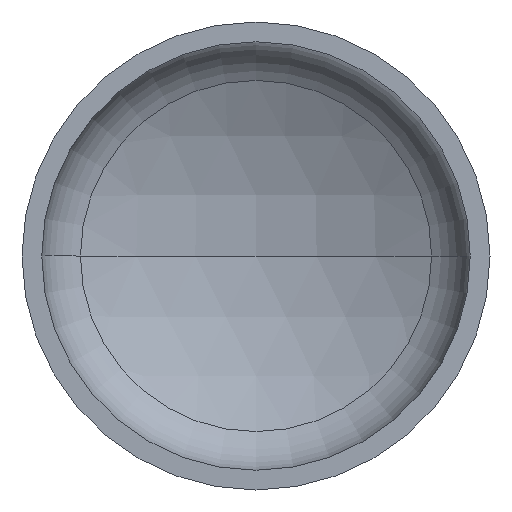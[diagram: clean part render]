
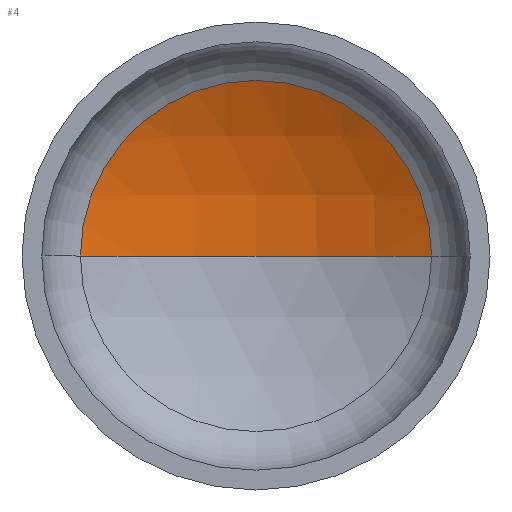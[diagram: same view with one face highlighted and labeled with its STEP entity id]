
A CAD part, front view. The second image highlights one B-rep face of the part: STEP entity #4.
In plain terms, the highlighted spherical face has radius 720 mm.
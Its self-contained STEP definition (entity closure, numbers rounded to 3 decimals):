
#4 = ADVANCED_FACE ( 'NONE', ( #109 ), #228, .F. ) ;
#17 = EDGE_LOOP ( 'NONE', ( #189, #226, #158 ) ) ;
#22 = AXIS2_PLACEMENT_3D ( 'NONE', #116, #327, #157 ) ;
#25 = AXIS2_PLACEMENT_3D ( 'NONE', #217, #214, #215 ) ;
#27 = AXIS2_PLACEMENT_3D ( 'NONE', #315, #313, #236 ) ;
#42 = AXIS2_PLACEMENT_3D ( 'NONE', #266, #304, #296 ) ;
#56 = EDGE_CURVE ( 'NONE', #192, #235, #84, .T. ) ;
#57 = EDGE_CURVE ( 'NONE', #154, #192, #383, .T. ) ;
#62 = EDGE_CURVE ( 'NONE', #154, #235, #265, .T. ) ;
#63 = CARTESIAN_POINT ( 'NONE',  ( -337.655, 243.65, 0. ) ) ;
#84 = CIRCLE ( 'NONE', #27, 337.655 ) ;
#109 = FACE_OUTER_BOUND ( 'NONE', #17, .T. ) ;
#116 = CARTESIAN_POINT ( 'NONE',  ( 0., -392.266, 0. ) ) ;
#154 = VERTEX_POINT ( 'NONE', #227 ) ;
#157 = DIRECTION ( 'NONE',  ( 1., 0., 0. ) ) ;
#158 = ORIENTED_EDGE ( 'NONE', *, *, #56, .T. ) ;
#189 = ORIENTED_EDGE ( 'NONE', *, *, #62, .F. ) ;
#192 = VERTEX_POINT ( 'NONE', #254 ) ;
#214 = DIRECTION ( 'NONE',  ( 0., 0., -1. ) ) ;
#215 = DIRECTION ( 'NONE',  ( -1., 0., 0. ) ) ;
#217 = CARTESIAN_POINT ( 'NONE',  ( 0., -392.266, 0. ) ) ;
#226 = ORIENTED_EDGE ( 'NONE', *, *, #57, .T. ) ;
#227 = CARTESIAN_POINT ( 'NONE',  ( 0., 327.734, 0. ) ) ;
#228 = SPHERICAL_SURFACE ( 'NONE', #42, 720. ) ;
#235 = VERTEX_POINT ( 'NONE', #63 ) ;
#236 = DIRECTION ( 'NONE',  ( 1., 0., 0. ) ) ;
#254 = CARTESIAN_POINT ( 'NONE',  ( 337.655, 243.65, 0. ) ) ;
#265 = CIRCLE ( 'NONE', #22, 720. ) ;
#266 = CARTESIAN_POINT ( 'NONE',  ( 0., -392.266, 0. ) ) ;
#296 = DIRECTION ( 'NONE',  ( -1., 0., 0. ) ) ;
#304 = DIRECTION ( 'NONE',  ( 0., 0., -1. ) ) ;
#313 = DIRECTION ( 'NONE',  ( 0., -1., 0. ) ) ;
#315 = CARTESIAN_POINT ( 'NONE',  ( 0., 243.65, 0. ) ) ;
#327 = DIRECTION ( 'NONE',  ( 0., 0., 1. ) ) ;
#383 = CIRCLE ( 'NONE', #25, 720. ) ;
